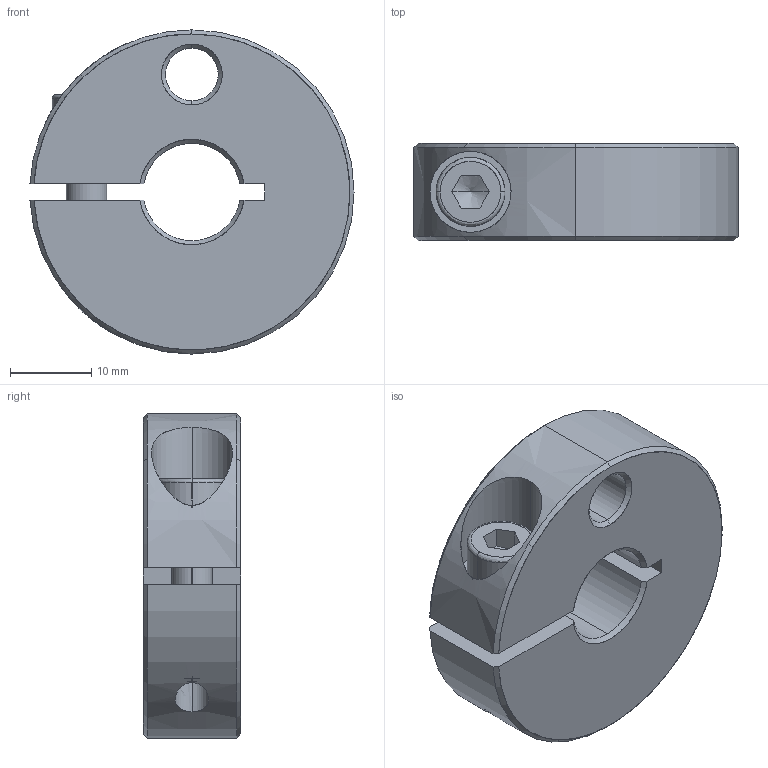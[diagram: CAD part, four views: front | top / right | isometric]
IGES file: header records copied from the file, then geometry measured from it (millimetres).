
Start section: SolidWorks IGES FILE using analytic representation for surfaces
Global section: file name: C:\WIX2\Positioning\3865\3865W012.igs; native system: SolidWorks 2003 by SolidWorks Corporation; preprocessor: Version 5.3; author: Joan; date: 030722.172913; units: millimetre
Bounding box: 39.98 x 12 x 40 mm (x, y, z)
Surface area: 5623.3 mm2 (no closed solid volume)
Topology: 0 solids, 0 shells, 66 faces, 1008 edges, 1006 vertices
Faces by surface type: revolution 46, bspline 20
